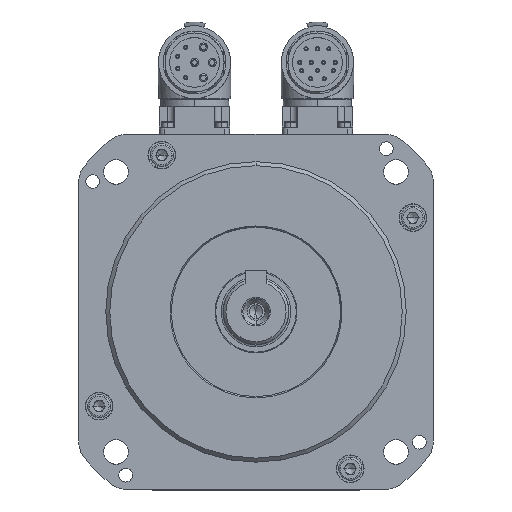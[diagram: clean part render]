
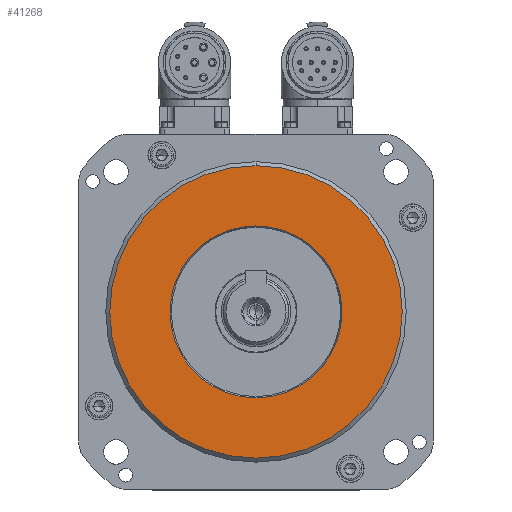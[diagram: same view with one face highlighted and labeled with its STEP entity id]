
A CAD part, top view. The second image highlights one B-rep face of the part: STEP entity #41268.
In plain terms, the highlighted planar face has unit normal (0, 0, 1).
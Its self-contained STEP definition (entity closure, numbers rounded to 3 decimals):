
#993 = EDGE_CURVE ( 'NONE', #62306, #45846, #32983, .T. ) ;
#1689 = ORIENTED_EDGE ( 'NONE', *, *, #993, .F. ) ;
#2033 = EDGE_CURVE ( 'NONE', #45846, #62306, #44934, .T. ) ;
#6245 = CIRCLE ( 'NONE', #59092, 53.54 ) ;
#8638 = CARTESIAN_POINT ( 'NONE',  ( 0., -31.481, 66.8 ) ) ;
#11863 = CARTESIAN_POINT ( 'NONE',  ( 0., 31.481, 66.8 ) ) ;
#13487 = CIRCLE ( 'NONE', #46478, 53.54 ) ;
#14028 = DIRECTION ( 'NONE',  ( 0., 0., 1. ) ) ;
#15902 = AXIS2_PLACEMENT_3D ( 'NONE', #23543, #14028, #33418 ) ;
#16661 = VERTEX_POINT ( 'NONE', #31064 ) ;
#17784 = ORIENTED_EDGE ( 'NONE', *, *, #37092, .T. ) ;
#17990 = CARTESIAN_POINT ( 'NONE',  ( 0., 0., 66.8 ) ) ;
#18847 = AXIS2_PLACEMENT_3D ( 'NONE', #31365, #26736, #60467 ) ;
#23530 = DIRECTION ( 'NONE',  ( 0., 0., 1. ) ) ;
#23543 = CARTESIAN_POINT ( 'NONE',  ( 0., 0., 66.8 ) ) ;
#24536 = CARTESIAN_POINT ( 'NONE',  ( 0., -53.54, 66.8 ) ) ;
#24952 = ORIENTED_EDGE ( 'NONE', *, *, #36790, .T. ) ;
#26736 = DIRECTION ( 'NONE',  ( 0., 0., 1. ) ) ;
#27960 = CARTESIAN_POINT ( 'NONE',  ( 0., 0., 66.8 ) ) ;
#28573 = DIRECTION ( 'NONE',  ( 0., -1., 0. ) ) ;
#29434 = EDGE_LOOP ( 'NONE', ( #17784, #24952 ) ) ;
#29757 = EDGE_LOOP ( 'NONE', ( #55726, #1689 ) ) ;
#31064 = CARTESIAN_POINT ( 'NONE',  ( 0., 53.54, 66.8 ) ) ;
#31365 = CARTESIAN_POINT ( 'NONE',  ( 0., 0., 66.8 ) ) ;
#32983 = CIRCLE ( 'NONE', #15902, 31.481 ) ;
#33418 = DIRECTION ( 'NONE',  ( 0., -1., 0. ) ) ;
#34344 = DIRECTION ( 'NONE',  ( 0., -1., 0. ) ) ;
#34576 = VERTEX_POINT ( 'NONE', #24536 ) ;
#36790 = EDGE_CURVE ( 'NONE', #34576, #16661, #13487, .T. ) ;
#36848 = PLANE ( 'NONE',  #18847 ) ;
#37092 = EDGE_CURVE ( 'NONE', #16661, #34576, #6245, .T. ) ;
#39411 = CARTESIAN_POINT ( 'NONE',  ( 0., 0., 66.8 ) ) ;
#41268 = ADVANCED_FACE ( 'NONE', ( #55687, #45855 ), #36848, .T. ) ;
#44248 = DIRECTION ( 'NONE',  ( 0., 0., 1. ) ) ;
#44934 = CIRCLE ( 'NONE', #45527, 31.481 ) ;
#45527 = AXIS2_PLACEMENT_3D ( 'NONE', #27960, #57079, #28573 ) ;
#45846 = VERTEX_POINT ( 'NONE', #11863 ) ;
#45855 = FACE_OUTER_BOUND ( 'NONE', #29434, .T. ) ;
#46478 = AXIS2_PLACEMENT_3D ( 'NONE', #39411, #44248, #34344 ) ;
#55687 = FACE_BOUND ( 'NONE', #29757, .T. ) ;
#55726 = ORIENTED_EDGE ( 'NONE', *, *, #2033, .F. ) ;
#57079 = DIRECTION ( 'NONE',  ( 0., 0., 1. ) ) ;
#59092 = AXIS2_PLACEMENT_3D ( 'NONE', #17990, #23530, #61473 ) ;
#60467 = DIRECTION ( 'NONE',  ( 0., -1., 0. ) ) ;
#61473 = DIRECTION ( 'NONE',  ( 0., -1., 0. ) ) ;
#62306 = VERTEX_POINT ( 'NONE', #8638 ) ;
